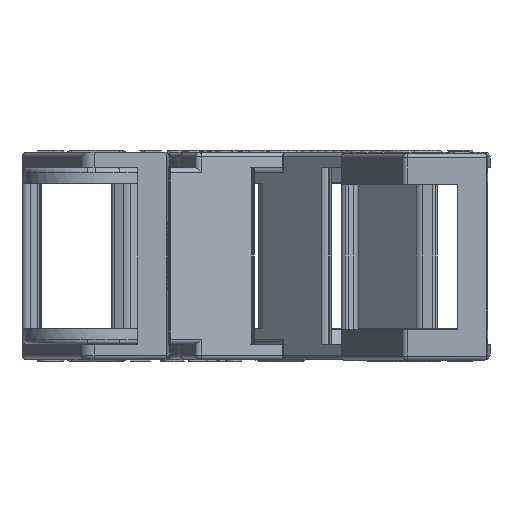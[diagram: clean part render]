
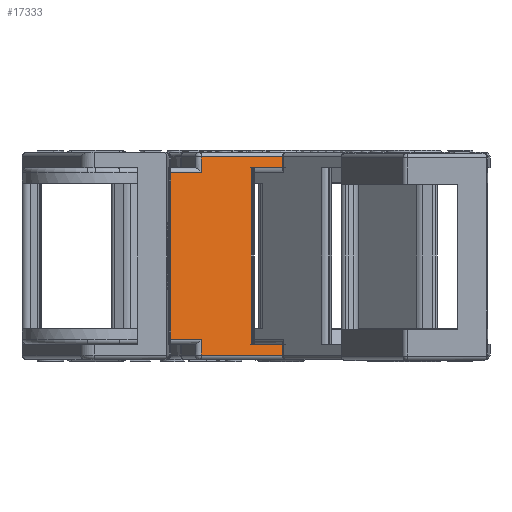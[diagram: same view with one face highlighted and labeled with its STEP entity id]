
A CAD part, left-side view. The second image highlights one B-rep face of the part: STEP entity #17333.
In plain terms, the highlighted planar face has unit normal (-0.924, -0.383, 0) as drawn and (0.002, -1, 0) by its records, which use the part's own axes.
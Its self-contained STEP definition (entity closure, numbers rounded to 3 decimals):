
#94 = VERTEX_POINT ( 'NONE', #24946 ) ;
#270 = DIRECTION ( 'NONE',  ( 0., 0., -1. ) ) ;
#440 = DIRECTION ( 'NONE',  ( -1., -0.002, 0. ) ) ;
#755 = LINE ( 'NONE', #21248, #6098 ) ;
#908 = LINE ( 'NONE', #24839, #5541 ) ;
#1064 = LINE ( 'NONE', #27357, #13860 ) ;
#1274 = VERTEX_POINT ( 'NONE', #20032 ) ;
#2044 = LINE ( 'NONE', #4467, #18767 ) ;
#2125 = ORIENTED_EDGE ( 'NONE', *, *, #3407, .F. ) ;
#2331 = EDGE_CURVE ( 'NONE', #25069, #26425, #27839, .T. ) ;
#2412 = ORIENTED_EDGE ( 'NONE', *, *, #3678, .T. ) ;
#2488 = VERTEX_POINT ( 'NONE', #13505 ) ;
#2531 = CARTESIAN_POINT ( 'NONE',  ( 21.074, -7.5, 1.6 ) ) ;
#2800 = DIRECTION ( 'NONE',  ( -1., -0.002, 0. ) ) ;
#3077 = VERTEX_POINT ( 'NONE', #3529 ) ;
#3202 = VERTEX_POINT ( 'NONE', #26043 ) ;
#3253 = LINE ( 'NONE', #11784, #26607 ) ;
#3407 = EDGE_CURVE ( 'NONE', #22426, #21434, #16861, .T. ) ;
#3428 = FACE_OUTER_BOUND ( 'NONE', #19496, .T. ) ;
#3505 = ORIENTED_EDGE ( 'NONE', *, *, #27853, .T. ) ;
#3529 = CARTESIAN_POINT ( 'NONE',  ( 0.627, -7.547, -17.7 ) ) ;
#3678 = EDGE_CURVE ( 'NONE', #16841, #25069, #24610, .T. ) ;
#3972 = VECTOR ( 'NONE', #440, 1000. ) ;
#4140 = CARTESIAN_POINT ( 'NONE',  ( 21.074, -7.5, -18.2 ) ) ;
#4184 = ORIENTED_EDGE ( 'NONE', *, *, #26866, .T. ) ;
#4314 = ORIENTED_EDGE ( 'NONE', *, *, #15839, .T. ) ;
#4467 = CARTESIAN_POINT ( 'NONE',  ( 21.074, -7.5, -18.2 ) ) ;
#4529 = CARTESIAN_POINT ( 'NONE',  ( 0.017, -7.548, 1.8 ) ) ;
#4581 = CARTESIAN_POINT ( 'NONE',  ( 21.074, -7.5, 0. ) ) ;
#4807 = VECTOR ( 'NONE', #28694, 1000. ) ;
#5227 = LINE ( 'NONE', #4529, #22624 ) ;
#5472 = DIRECTION ( 'NONE',  ( 1., 0.002, 0. ) ) ;
#5541 = VECTOR ( 'NONE', #9212, 1000. ) ;
#5826 = VERTEX_POINT ( 'NONE', #9213 ) ;
#5865 = CARTESIAN_POINT ( 'NONE',  ( 21.074, -7.5, -19.3 ) ) ;
#5963 = CARTESIAN_POINT ( 'NONE',  ( 8.454, -7.529, -19.3 ) ) ;
#6019 = DIRECTION ( 'NONE',  ( -0.002, 1., 0. ) ) ;
#6034 = ORIENTED_EDGE ( 'NONE', *, *, #6323, .T. ) ;
#6036 = EDGE_CURVE ( 'NONE', #1274, #12365, #13577, .T. ) ;
#6098 = VECTOR ( 'NONE', #9913, 1000. ) ;
#6323 = EDGE_CURVE ( 'NONE', #12365, #7708, #3253, .T. ) ;
#6435 = LINE ( 'NONE', #11687, #17791 ) ;
#6580 = VECTOR ( 'NONE', #5472, 1000. ) ;
#6900 = VERTEX_POINT ( 'NONE', #26305 ) ;
#7170 = EDGE_CURVE ( 'NONE', #3202, #16841, #6435, .T. ) ;
#7226 = ORIENTED_EDGE ( 'NONE', *, *, #15082, .T. ) ;
#7279 = DIRECTION ( 'NONE',  ( 0., 0., 1. ) ) ;
#7708 = VERTEX_POINT ( 'NONE', #27542 ) ;
#7956 = VERTEX_POINT ( 'NONE', #12815 ) ;
#8125 = ORIENTED_EDGE ( 'NONE', *, *, #15043, .F. ) ;
#8147 = CARTESIAN_POINT ( 'NONE',  ( 21.074, -7.5, -17.7 ) ) ;
#8203 = PLANE ( 'NONE',  #10028 ) ;
#8301 = ORIENTED_EDGE ( 'NONE', *, *, #18923, .T. ) ;
#9212 = DIRECTION ( 'NONE',  ( -1., -0.002, 0. ) ) ;
#9213 = CARTESIAN_POINT ( 'NONE',  ( 0.017, -7.548, -1.6 ) ) ;
#9682 = ORIENTED_EDGE ( 'NONE', *, *, #6036, .T. ) ;
#9693 = VECTOR ( 'NONE', #270, 1000. ) ;
#9913 = DIRECTION ( 'NONE',  ( 0., 0., -1. ) ) ;
#10001 = LINE ( 'NONE', #23146, #3972 ) ;
#10028 = AXIS2_PLACEMENT_3D ( 'NONE', #19635, #6019, #21873 ) ;
#10339 = EDGE_CURVE ( 'NONE', #1274, #21732, #22486, .T. ) ;
#11085 = ORIENTED_EDGE ( 'NONE', *, *, #18024, .T. ) ;
#11209 = EDGE_CURVE ( 'NONE', #21434, #5826, #10001, .T. ) ;
#11687 = CARTESIAN_POINT ( 'NONE',  ( 8.454, -7.529, 1.6 ) ) ;
#11764 = EDGE_CURVE ( 'NONE', #94, #2488, #755, .T. ) ;
#11784 = CARTESIAN_POINT ( 'NONE',  ( 8.454, -7.529, 1.6 ) ) ;
#12211 = VECTOR ( 'NONE', #14579, 1000. ) ;
#12365 = VERTEX_POINT ( 'NONE', #24428 ) ;
#12815 = CARTESIAN_POINT ( 'NONE',  ( 0.627, -7.547, -0.5 ) ) ;
#12891 = VERTEX_POINT ( 'NONE', #18290 ) ;
#13505 = CARTESIAN_POINT ( 'NONE',  ( 0.017, -7.548, -17.7 ) ) ;
#13540 = DIRECTION ( 'NONE',  ( 1., 0.002, 0. ) ) ;
#13577 = LINE ( 'NONE', #16406, #19644 ) ;
#13596 = CARTESIAN_POINT ( 'NONE',  ( -1.451, -7.551, -16.6 ) ) ;
#13620 = ORIENTED_EDGE ( 'NONE', *, *, #10339, .F. ) ;
#13860 = VECTOR ( 'NONE', #13871, 1000. ) ;
#13871 = DIRECTION ( 'NONE',  ( 0., 0., 1. ) ) ;
#14579 = DIRECTION ( 'NONE',  ( -1., -0.002, 0. ) ) ;
#15043 = EDGE_CURVE ( 'NONE', #12891, #26425, #2044, .T. ) ;
#15082 = EDGE_CURVE ( 'NONE', #22426, #94, #18049, .T. ) ;
#15839 = EDGE_CURVE ( 'NONE', #6900, #5826, #5227, .T. ) ;
#16406 = CARTESIAN_POINT ( 'NONE',  ( 7.952, -7.53, 1.1 ) ) ;
#16841 = VERTEX_POINT ( 'NONE', #5963 ) ;
#16861 = LINE ( 'NONE', #25519, #4807 ) ;
#17118 = CARTESIAN_POINT ( 'NONE',  ( 14.015, -7.516, 0. ) ) ;
#17303 = ORIENTED_EDGE ( 'NONE', *, *, #11764, .T. ) ;
#17333 = ADVANCED_FACE ( 'NONE', ( #3428 ), #8203, .F. ) ;
#17774 = EDGE_CURVE ( 'NONE', #2488, #3077, #21864, .T. ) ;
#17791 = VECTOR ( 'NONE', #27469, 1000. ) ;
#17976 = DIRECTION ( 'NONE',  ( 1., 0.002, 0. ) ) ;
#18024 = EDGE_CURVE ( 'NONE', #7708, #7956, #908, .T. ) ;
#18049 = LINE ( 'NONE', #13596, #29321 ) ;
#18280 = LINE ( 'NONE', #27985, #12211 ) ;
#18290 = CARTESIAN_POINT ( 'NONE',  ( 14.015, -7.516, -18.2 ) ) ;
#18418 = ORIENTED_EDGE ( 'NONE', *, *, #7170, .T. ) ;
#18767 = VECTOR ( 'NONE', #17976, 1000. ) ;
#18923 = EDGE_CURVE ( 'NONE', #19555, #21732, #19864, .T. ) ;
#19496 = EDGE_LOOP ( 'NONE', ( #17303, #26128, #4184, #18418, #2412, #24756, #8125, #3505, #8301, #13620, #9682, #6034, #11085, #22158, #4314, #27366, #2125, #7226 ) ) ;
#19555 = VERTEX_POINT ( 'NONE', #17118 ) ;
#19635 = CARTESIAN_POINT ( 'NONE',  ( 21.074, -7.5, 1.6 ) ) ;
#19644 = VECTOR ( 'NONE', #2800, 1000. ) ;
#19864 = LINE ( 'NONE', #4581, #25112 ) ;
#20032 = CARTESIAN_POINT ( 'NONE',  ( 21.074, -7.5, 1.1 ) ) ;
#20675 = CARTESIAN_POINT ( 'NONE',  ( 5.055, -7.537, -16.6 ) ) ;
#20679 = DIRECTION ( 'NONE',  ( 1., 0.002, 0. ) ) ;
#20874 = CARTESIAN_POINT ( 'NONE',  ( 21.074, -7.5, 0. ) ) ;
#21248 = CARTESIAN_POINT ( 'NONE',  ( 0.017, -7.548, 1.8 ) ) ;
#21349 = LINE ( 'NONE', #27023, #22045 ) ;
#21434 = VERTEX_POINT ( 'NONE', #23706 ) ;
#21732 = VERTEX_POINT ( 'NONE', #20874 ) ;
#21864 = LINE ( 'NONE', #8147, #23280 ) ;
#21871 = VECTOR ( 'NONE', #7279, 1000. ) ;
#21873 = DIRECTION ( 'NONE',  ( -1., -0.002, 0. ) ) ;
#22045 = VECTOR ( 'NONE', #13540, 1000. ) ;
#22158 = ORIENTED_EDGE ( 'NONE', *, *, #23917, .T. ) ;
#22426 = VERTEX_POINT ( 'NONE', #20675 ) ;
#22486 = LINE ( 'NONE', #2531, #9693 ) ;
#22624 = VECTOR ( 'NONE', #22687, 1000. ) ;
#22687 = DIRECTION ( 'NONE',  ( 0., 0., -1. ) ) ;
#22726 = DIRECTION ( 'NONE',  ( -1., -0.002, 0. ) ) ;
#23146 = CARTESIAN_POINT ( 'NONE',  ( -1.451, -7.551, -1.6 ) ) ;
#23280 = VECTOR ( 'NONE', #23972, 1000. ) ;
#23706 = CARTESIAN_POINT ( 'NONE',  ( 5.055, -7.537, -1.6 ) ) ;
#23917 = EDGE_CURVE ( 'NONE', #7956, #6900, #18280, .T. ) ;
#23937 = CARTESIAN_POINT ( 'NONE',  ( 21.074, -7.5, -19.3 ) ) ;
#23972 = DIRECTION ( 'NONE',  ( 1., 0.002, 0. ) ) ;
#24428 = CARTESIAN_POINT ( 'NONE',  ( 8.454, -7.529, 1.1 ) ) ;
#24610 = LINE ( 'NONE', #5865, #6580 ) ;
#24756 = ORIENTED_EDGE ( 'NONE', *, *, #2331, .T. ) ;
#24839 = CARTESIAN_POINT ( 'NONE',  ( 21.074, -7.5, -0.5 ) ) ;
#24946 = CARTESIAN_POINT ( 'NONE',  ( 0.017, -7.548, -16.6 ) ) ;
#25069 = VERTEX_POINT ( 'NONE', #23937 ) ;
#25112 = VECTOR ( 'NONE', #20679, 1000. ) ;
#25519 = CARTESIAN_POINT ( 'NONE',  ( 5.055, -7.537, -9.1 ) ) ;
#26043 = CARTESIAN_POINT ( 'NONE',  ( 8.454, -7.529, -17.7 ) ) ;
#26128 = ORIENTED_EDGE ( 'NONE', *, *, #17774, .T. ) ;
#26305 = CARTESIAN_POINT ( 'NONE',  ( 0.017, -7.548, -0.5 ) ) ;
#26425 = VERTEX_POINT ( 'NONE', #4140 ) ;
#26607 = VECTOR ( 'NONE', #27488, 1000. ) ;
#26866 = EDGE_CURVE ( 'NONE', #3077, #3202, #21349, .T. ) ;
#27023 = CARTESIAN_POINT ( 'NONE',  ( 21.074, -7.5, -17.7 ) ) ;
#27357 = CARTESIAN_POINT ( 'NONE',  ( 14.015, -7.516, -9.1 ) ) ;
#27366 = ORIENTED_EDGE ( 'NONE', *, *, #11209, .F. ) ;
#27469 = DIRECTION ( 'NONE',  ( 0., 0., -1. ) ) ;
#27488 = DIRECTION ( 'NONE',  ( 0., 0., -1. ) ) ;
#27542 = CARTESIAN_POINT ( 'NONE',  ( 8.454, -7.529, -0.5 ) ) ;
#27839 = LINE ( 'NONE', #28746, #21871 ) ;
#27853 = EDGE_CURVE ( 'NONE', #12891, #19555, #1064, .T. ) ;
#27985 = CARTESIAN_POINT ( 'NONE',  ( 21.074, -7.5, -0.5 ) ) ;
#28694 = DIRECTION ( 'NONE',  ( 0., 0., 1. ) ) ;
#28746 = CARTESIAN_POINT ( 'NONE',  ( 21.074, -7.5, -19.8 ) ) ;
#29321 = VECTOR ( 'NONE', #22726, 1000. ) ;
